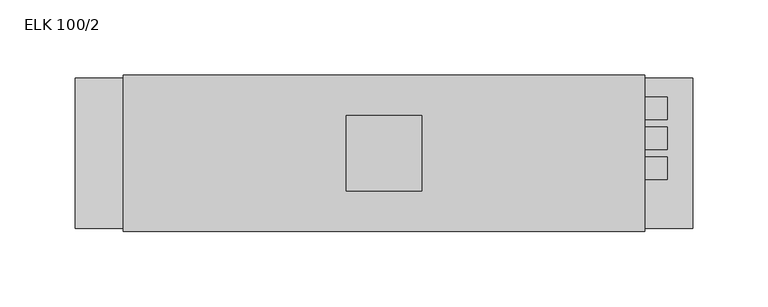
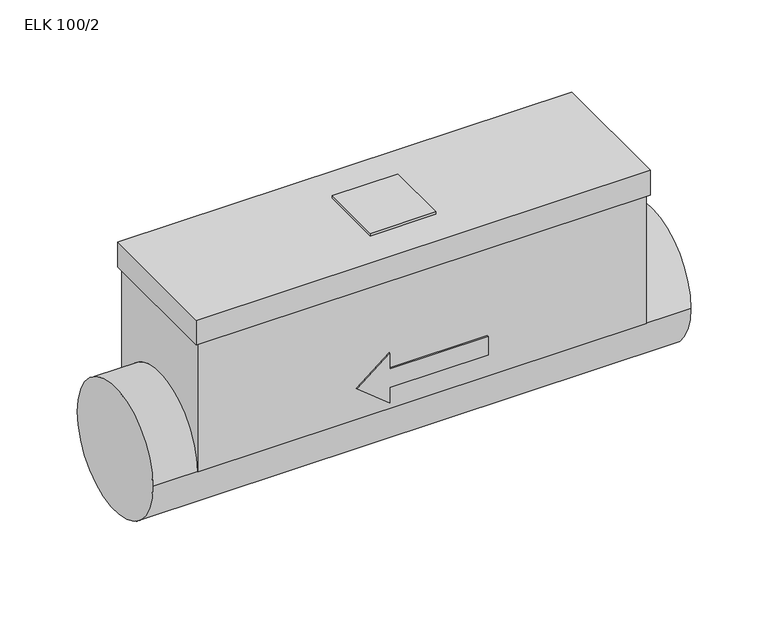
"""IFC4 building model written with IfcOpenShell, lengths in millimetres: proxy geometry, KORF_Нагреватель_Электрический_Круглый_ELK : ELK 100/2."""

from ifc_helpers import new_model, si_unit, point, frame, frame_2d, origin, place, context, project, spatial, polyline, circle_curve, trimmed, segment, composite_curve, outline, extrude, source, transform, mapped, element, save
from ifc_brep_helpers import plane_surface, cylinder_surface, advanced_brep


def elk_100_2_3eff5f2a(model_context):
    return source(origin(), model_context, "Body", "SolidModel", [
        extrude(outline(polyline([(230.0, 25.0), (230.0, -25.0), (180.0, -25.0), (180.0, 25.0), (230.0, 25.0)])), frame((0.0, 0.0, 124.0), z_axis=(0.0, 0.0, 1.0), x_axis=(1.0, 0.0, 0.0)), (0.0, 0.0, 1.0), 2.0),
        extrude(outline(composite_curve([segment(trimmed(circle_curve(frame_2d((-10.0, 84.0)), 7.5), [point((-17.5, 84.0))], [point((-2.5, 84.0))], False, "CARTESIAN"), True, "CONTINUOUS"), segment(trimmed(circle_curve(frame_2d((-10.0, 84.0)), 7.5), [point((-2.5, 84.0))], [point((-17.5, 84.0))], False, "CARTESIAN"), True, "CONTINUOUS")], self_intersect=False)), frame((376.0, 0.0, 0.0), z_axis=(1.0, 0.0, 0.0), x_axis=(0.0, 1.0, 0.0)), (0.0, 0.0, 1.0), 17.0),
        extrude(outline(composite_curve([segment(trimmed(circle_curve(frame_2d((10.0, 84.0)), 7.5), [point((2.5, 84.0))], [point((17.5, 84.0))], False, "CARTESIAN"), True, "CONTINUOUS"), segment(trimmed(circle_curve(frame_2d((10.0, 84.0)), 7.5), [point((17.5, 84.0))], [point((2.5, 84.0))], False, "CARTESIAN"), True, "CONTINUOUS")], self_intersect=False)), frame((376.0, 0.0, 0.0), z_axis=(1.0, 0.0, 0.0), x_axis=(0.0, 1.0, 0.0)), (0.0, 0.0, 1.0), 17.0),
        extrude(outline(composite_curve([segment(trimmed(circle_curve(frame_2d((30.0, 84.0)), 7.5), [point((22.5, 84.0))], [point((37.5, 84.0))], False, "CARTESIAN"), True, "CONTINUOUS"), segment(trimmed(circle_curve(frame_2d((30.0, 84.0)), 7.5), [point((37.5, 84.0))], [point((22.5, 84.0))], False, "CARTESIAN"), True, "CONTINUOUS")], self_intersect=False)), frame((376.0, 0.0, 0.0), z_axis=(1.0, 0.0, 0.0), x_axis=(0.0, 1.0, 0.0)), (0.0, 0.0, 1.0), 17.0),
        advanced_brep(
        [(378.0, 52.0, 104.0), (378.0, -52.0, 104.0), (32.0, -52.0, 104.0), (32.0, 52.0, 104.0), (376.0, 50.0, 104.0), (34.0, 50.0, 104.0), (34.0, -50.0, 104.0), (376.0, -50.0, 104.0), (378.0, 52.0, 124.0), (32.0, 52.0, 124.0), (32.0, -52.0, 124.0), (378.0, -52.0, 124.0), (376.0, 50.0, 0.0), (34.0, 50.0, 0.0), (180.0, 50.0, 45.0), (155.0, 50.0, 25.0), (180.0, 50.0, 5.0), (180.0, 50.0, 17.5), (255.0, 50.0, 17.5), (255.0, 50.0, 32.5), (180.0, 50.0, 32.5), (34.0, -50.0, 0.0), (376.0, -50.0, 0.0), (155.0, -50.0, 25.0), (180.0, -50.0, 45.0), (180.0, -50.0, 32.5), (255.0, -50.0, 32.5), (255.0, -50.0, 17.5), (180.0, -50.0, 17.5), (180.0, -50.0, 5.0), (410.0, -50.0, 0.0), (410.0, 50.0, 0.0), (0.0, -50.0, 0.0), (0.0, 50.0, 0.0), (180.0, -51.0, 45.0), (155.0, -51.0, 25.0), (180.0, -51.0, 5.0), (180.0, -51.0, 17.5), (255.0, -51.0, 17.5), (255.0, -51.0, 32.5), (180.0, -51.0, 32.5), (180.0, 51.0, 45.0), (180.0, 51.0, 32.5), (255.0, 51.0, 32.5), (255.0, 51.0, 17.5), (180.0, 51.0, 17.5), (180.0, 51.0, 5.0), (155.0, 51.0, 25.0)],
        [
            (0, 1),
            (1, 2),
            (2, 3),
            (3, 0),
            (4, 5),
            (5, 6),
            (6, 7),
            (7, 4),
            (8, 9),
            (9, 10),
            (10, 11),
            (11, 8),
            (3, 9),
            (8, 0),
            (2, 10),
            (1, 11),
            (4, 12),
            (12, 13),
            (13, 5),
            (14, 15),
            (15, 16),
            (16, 17),
            (17, 18),
            (18, 19),
            (19, 20),
            (20, 14),
            (13, 21, circle_curve(frame((34.0, 0.0, 0.0), z_axis=(1.0, 0.0, 0.0), x_axis=(0.0, 1.0, 0.0)), 50.0)),
            (21, 6),
            (21, 22),
            (22, 7),
            (23, 24),
            (24, 25),
            (25, 26),
            (26, 27),
            (27, 28),
            (28, 29),
            (29, 23),
            (22, 12, circle_curve(frame((376.0, 0.0, 0.0), z_axis=(-1.0, 0.0, 0.0), x_axis=(0.0, 1.0, 0.0)), 50.0)),
            (30, 31, circle_curve(frame((410.0, 0.0, 0.0), z_axis=(1.0, 0.0, 0.0), x_axis=(0.0, 1.0, 0.0)), 50.0)),
            (31, 30, circle_curve(frame((410.0, 0.0, 0.0), z_axis=(1.0, 0.0, 0.0), x_axis=(0.0, 1.0, 0.0)), 50.0)),
            (32, 33, circle_curve(frame((0.0, 0.0, 0.0), z_axis=(-1.0, 0.0, 0.0), x_axis=(0.0, 1.0, 0.0)), 50.0)),
            (33, 32, circle_curve(frame((0.0, 0.0, 0.0), z_axis=(-1.0, 0.0, 0.0), x_axis=(0.0, 1.0, 0.0)), 50.0)),
            (30, 22),
            (21, 32),
            (33, 13),
            (12, 31),
            (34, 35),
            (35, 36),
            (36, 37),
            (37, 38),
            (38, 39),
            (39, 40),
            (40, 34),
            (41, 42),
            (42, 43),
            (43, 44),
            (44, 45),
            (45, 46),
            (46, 47),
            (47, 41),
            (34, 24),
            (23, 35),
            (47, 15),
            (14, 41),
            (29, 36),
            (46, 16),
            (28, 37),
            (45, 17),
            (27, 38),
            (44, 18),
            (26, 39),
            (43, 19),
            (25, 40),
            (42, 20),
        ],
        [
            plane_surface(frame((32.0, 52.0, 104.0), z_axis=(0.0, 0.0, -1.0), x_axis=(1.0, 0.0, 0.0))),
            plane_surface(frame((32.0, 52.0, 124.0), z_axis=(0.0, 0.0, 1.0), x_axis=(-1.0, 0.0, 0.0))),
            plane_surface(frame((378.0, 52.0, 124.0), z_axis=(0.0, 1.0, 0.0), x_axis=(0.0, 0.0, -1.0))),
            plane_surface(frame((32.0, 52.0, 124.0), z_axis=(-1.0, 0.0, 0.0), x_axis=(0.0, 0.0, -1.0))),
            plane_surface(frame((32.0, -52.0, 124.0), z_axis=(0.0, -1.0, 0.0), x_axis=(0.0, 0.0, -1.0))),
            plane_surface(frame((378.0, -52.0, 124.0), z_axis=(1.0, 0.0, 0.0), x_axis=(0.0, 0.0, -1.0))),
            plane_surface(frame((376.0, 50.0, 124.0), z_axis=(0.0, 1.0, 0.0), x_axis=(0.0, 0.0, -1.0))),
            plane_surface(frame((34.0, 50.0, 124.0), z_axis=(-1.0, 0.0, 0.0), x_axis=(0.0, 0.0, -1.0))),
            plane_surface(frame((34.0, -50.0, 124.0), z_axis=(0.0, -1.0, 0.0), x_axis=(0.0, 0.0, -1.0))),
            plane_surface(frame((376.0, -50.0, 124.0), z_axis=(1.0, 0.0, 0.0), x_axis=(0.0, 0.0, -1.0))),
            plane_surface(frame((410.0, 50.0, 0.0), z_axis=(1.0, 0.0, 0.0), x_axis=(0.0, 0.0, 1.0))),
            plane_surface(frame((0.0, 50.0, 0.0), z_axis=(-1.0, 0.0, 0.0), x_axis=(0.0, 0.0, -1.0))),
            cylinder_surface(frame((0.0, 0.0, 0.0), z_axis=(1.0, 0.0, 0.0), x_axis=(0.0, 1.0, 0.0)), 50.0),
            plane_surface(frame((155.0, -51.0, 25.0), z_axis=(0.0, -1.0, 0.0), x_axis=(-0.7808688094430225, 0.0, -0.6246950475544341))),
            plane_surface(frame((155.0, 51.0, 25.0), z_axis=(0.0, 1.0, 0.0), x_axis=(0.7808688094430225, 0.0, 0.6246950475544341))),
            plane_surface(frame((180.0, -51.0, 45.0), z_axis=(-0.6246950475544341, 0.0, 0.7808688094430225), x_axis=(0.0, 1.0, 0.0))),
            plane_surface(frame((155.0, -51.0, 25.0), z_axis=(-0.6246950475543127, 0.0, -0.7808688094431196), x_axis=(0.0, 1.0, 0.0))),
            plane_surface(frame((180.0, -51.0, 5.0), z_axis=(1.0, 0.0, 0.0), x_axis=(0.0, 1.0, 0.0))),
            plane_surface(frame((180.0, -51.0, 17.5), z_axis=(0.0, 0.0, -1.0), x_axis=(0.0, 1.0, 0.0))),
            plane_surface(frame((255.0, -51.0, 17.5), z_axis=(1.0, 0.0, 0.0), x_axis=(0.0, 1.0, 0.0))),
            plane_surface(frame((255.0, -51.0, 32.5), z_axis=(0.0, 0.0, 1.0), x_axis=(0.0, 1.0, 0.0))),
            plane_surface(frame((180.0, -51.0, 32.5), z_axis=(1.0, 0.0, 0.0), x_axis=(0.0, 1.0, 0.0))),
        ],
        [
            (0, [[1, 2, 3, 4], [5, 6, 7, 8]]),
            (1, [[9, 10, 11, 12]]),
            (2, [[-4, 13, -9, 14]]),
            (3, [[-3, 15, -10, -13]]),
            (4, [[-2, 16, -11, -15]]),
            (5, [[-1, -14, -12, -16]]),
            (6, [[17, 18, 19, -5], [20, 21, 22, 23, 24, 25, 26]]),
            (7, [[-19, 27, 28, -6]]),
            (8, [[-28, 29, 30, -7], [31, 32, 33, 34, 35, 36, 37]]),
            (9, [[-17, -8, -30, 38]]),
            (10, [[39, 40]]),
            (11, [[41, 42]]),
            (12, [[-39, 43, -29, 44, -42, 45, -18, 46]]),
            (12, [[-40, -46, -38, -43]]),
            (12, [[-41, -44, -27, -45]]),
            (13, [[47, 48, 49, 50, 51, 52, 53]]),
            (14, [[54, 55, 56, 57, 58, 59, 60]]),
            (15, [[-47, 61, -31, 62]]),
            (15, [[-60, 63, -20, 64]]),
            (16, [[-48, -62, -37, 65]]),
            (16, [[-59, 66, -21, -63]]),
            (17, [[-49, -65, -36, 67]]),
            (17, [[-58, 68, -22, -66]]),
            (18, [[-50, -67, -35, 69]]),
            (18, [[-57, 70, -23, -68]]),
            (19, [[-51, -69, -34, 71]]),
            (19, [[-56, 72, -24, -70]]),
            (20, [[-52, -71, -33, 73]]),
            (20, [[-55, 74, -25, -72]]),
            (21, [[-53, -73, -32, -61]]),
            (21, [[-54, -64, -26, -74]]),
        ],
    ),
    ])


if __name__ == "__main__":
    model = new_model("IFC4")
    model_context = context("Model", 3, world=origin())
    ifc_project = project(units=[si_unit("LENGTHUNIT", "METRE", prefix="MILLI")], contexts=[model_context])
    site = spatial("IfcSite", under=ifc_project)
    building = spatial("IfcBuilding", under=site)
    placement = place(None, origin())
    elk_100_2_shape = elk_100_2_3eff5f2a(model_context)
    element("IfcBuildingElementProxy", 1, Name="KORF_Нагреватель_Электрический_Круглый_ELK : ELK 100/2", ObjectType="KORF_Нагреватель_Электрический_Круглый_ELK : ELK 100/2", at=placement, inside=building, context=model_context, shape_type="MappedRepresentation", body=[
        mapped(elk_100_2_shape, transform((0.0, 0.0, 0.0), x_axis=(1.0, 0.0, 0.0), y_axis=(0.0, 1.0, 0.0), z_axis=(0.0, 0.0, 1.0))),
    ])
    save(model, "model.ifc")
